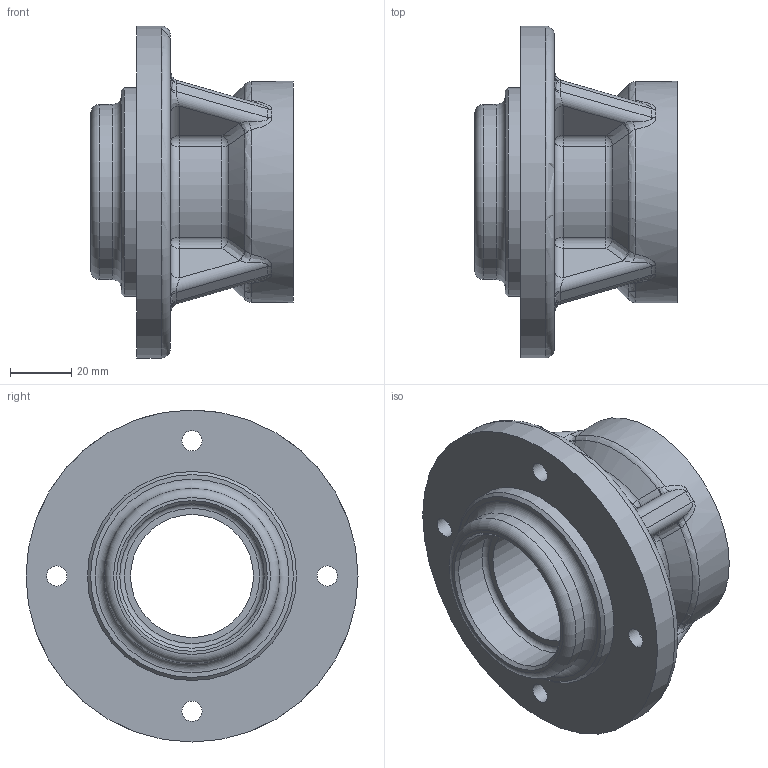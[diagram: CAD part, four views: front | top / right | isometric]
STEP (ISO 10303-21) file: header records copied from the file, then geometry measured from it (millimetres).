
FILE_DESCRIPTION(/* description */ (''),/* implementation_level */ '2;1');
FILE_NAME(/* name */ '',/* time_stamp */ '2026-04-23T11:31:02+09:00',/* author */ ('jhkim'),/* organization */ (''),/* preprocessor_version */ 'ST-DEVELOPER v20.1',/* originating_system */ 'Autodesk Inventor 2027',/* authorisation */ '');
FILE_SCHEMA (('AUTOMOTIVE_DESIGN { 1 0 10303 214 3 1 1 }'));
Length unit declared in the file: millimetre
Products named in the file (1): 베어링 하우징
Bounding box: 66 x 108 x 108 mm (x, y, z)
Volume: 187169.5 mm3; surface area: 42825.9 mm2
Topology: 1 solids, 1 shells, 173 faces, 381 edges, 218 vertices
Faces by surface type: bspline 56, cylinder 47, plane 26, torus 17, sphere 16, cone 11
Full cylindrical faces by diameter (mm): 3.242 x4, 6.6 x4, 11 x4, 40 x1, 47 x2, 57 x1, 68 x1, 72 x1, 108 x1
Entity records: 5963 total; most frequent: CARTESIAN_POINT 2307, ORIENTED_EDGE 754, DIRECTION 740, EDGE_CURVE 377, AXIS2_PLACEMENT_3D 333, VERTEX_POINT 218, EDGE_LOOP 195, CIRCLE 191
